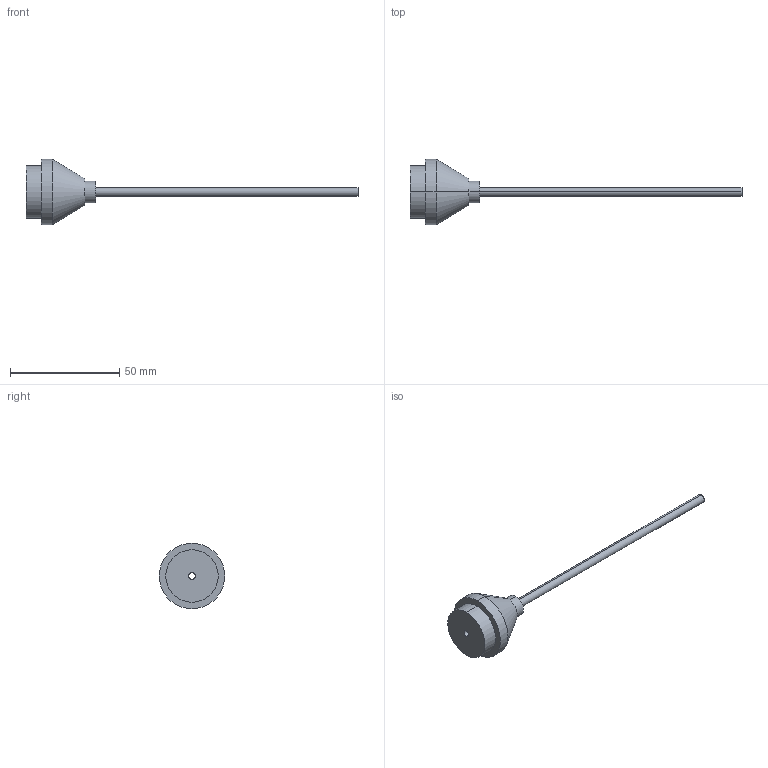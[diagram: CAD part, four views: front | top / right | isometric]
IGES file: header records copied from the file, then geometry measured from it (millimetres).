
Start section: SolidWorks IGES FILE using analytic representation for surfaces
Global section: file name: \\intra-srv04\開発データ\CAD_Data\CAD委員会\3D電子ｶﾀﾛｸﾞ\製品カタログ（新）\0_IGES\ER-AS12.IGS,41HSolidWorks 2004; native system: by SolidWorks Corporation; preprocessor: Version 5.3; author: mf1158; date: 050905.161521; units: millimetre
Bounding box: 152 x 30 x 30 mm (x, y, z)
Volume: 13040.8 mm3; surface area: 6056.5 mm2
Topology: 1 solids, 1 shells, 17 faces, 34 edges, 22 vertices
Faces by surface type: revolution 12, plane 5
